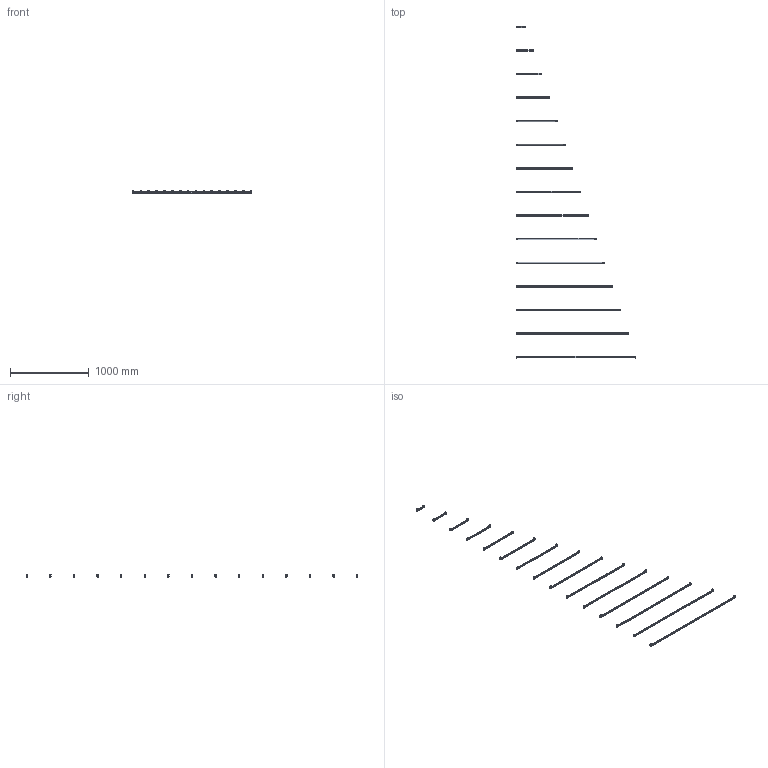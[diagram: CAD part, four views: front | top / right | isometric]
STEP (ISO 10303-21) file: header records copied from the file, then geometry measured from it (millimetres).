
FILE_DESCRIPTION(/* description */ (''),/* implementation_level */ '2;1');
FILE_NAME(/* name */ 'C:/Users/elena/OneDrive/Allegati di posta elettronica/Desktop/Piko Goccia 01A .step',/* time_stamp */ '2020-05-19T12:23:24+02:00',/* author */ (''),/* organization */ (''),/* preprocessor_version */ 'ST-DEVELOPER v18.1',/* originating_system */ 'Autodesk Translation Framework v9.3.0.1241',/* authorisation */ '');
FILE_SCHEMA (('AUTOMOTIVE_DESIGN { 1 0 10303 214 3 1 1 }'));
Products named in the file (2): Piko Goccia 01A; 01A
Assembly tree (1 placements, depth 2):
  Piko Goccia 01A
    01A
Bounding box: 1522 x 4219.8 x 31.03 mm (x, y, z)
Volume: 3003971 mm3; surface area: 1494000.7 mm2
Topology: 90 solids, 90 shells, 2478 faces, 6249 edges, 4101 vertices
Faces by surface type: cylinder 1410, plane 888, bspline 150, cone 30
Full cylindrical faces by diameter (mm): 2.5 x60, 3 x30, 7 x60, 19.8 x30
Entity records: 96307 total; most frequent: CARTESIAN_POINT 34191, DIRECTION 13581, ORIENTED_EDGE 12498, EDGE_CURVE 6249, AXIS2_PLACEMENT_3D 5241, VERTEX_POINT 4101, LINE 3099, VECTOR 3099
